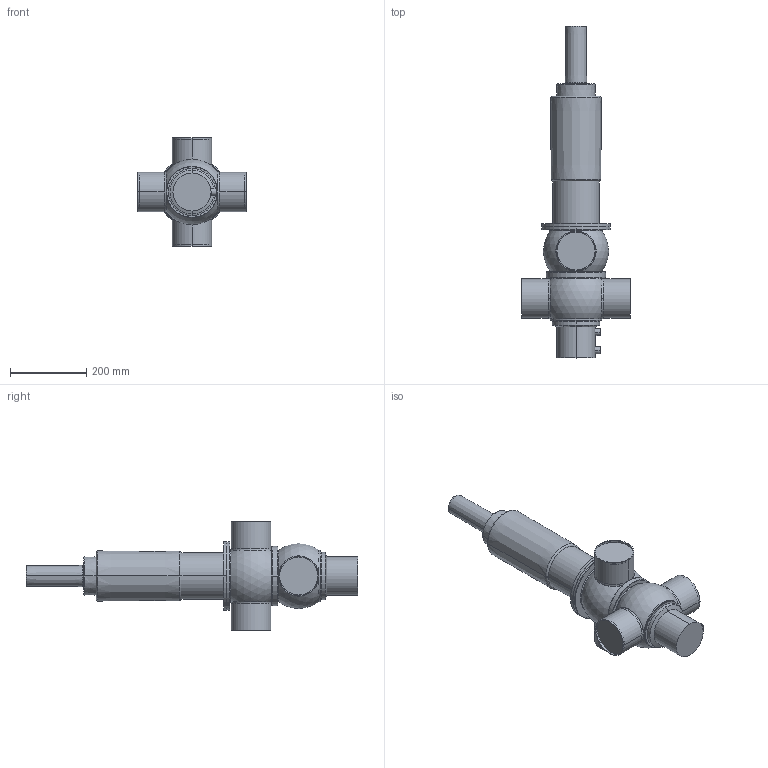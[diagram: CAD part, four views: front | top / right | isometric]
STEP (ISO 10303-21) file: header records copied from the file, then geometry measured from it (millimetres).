
FILE_DESCRIPTION(('Creo Elements/Direct Modeling STEP Export'),'2;1');
FILE_NAME('D44-100_prox..stp','2019-09-03T15:55:44',(''),(''),'PTC Creo Elements/Direct Modeling STEP processor for AP214 (Solid Model)','PTC Creo Elements/Direct Modeling 19.0B 21-Mar-2015 (C) Parametric Technology GmbH','');
FILE_SCHEMA(('AUTOMOTIVE_DESIGN { 1 0 10303 214 1 1 1 1 }'));
Length unit declared in the file: millimetre
Products named in the file (5): actuator_D4-125_yoke; D4_Prox._holder.; drain_pipe_92; housing_D44-100; D44-100_Prox.
Assembly tree (4 placements, depth 2):
  D44-100_Prox.
    housing_D44-100
    drain_pipe_92
    D4_Prox._holder.
    actuator_D4-125_yoke
Bounding box: 285 x 873 x 285 mm (x, y, z)
Volume: 13063312.4 mm3; surface area: 599769.3 mm2
Topology: 4 solids, 4 shells, 133 faces, 286 edges, 175 vertices
Faces by surface type: cylinder 48, torus 40, plane 28, cone 12, sphere 5
Entity records: 4166 total; most frequent: CARTESIAN_POINT 1372, DIRECTION 570, ORIENTED_EDGE 568, EDGE_CURVE 284, AXIS2_PLACEMENT_3D 255, VERTEX_POINT 175, EDGE_LOOP 149, FACE_OUTER_BOUND 133
